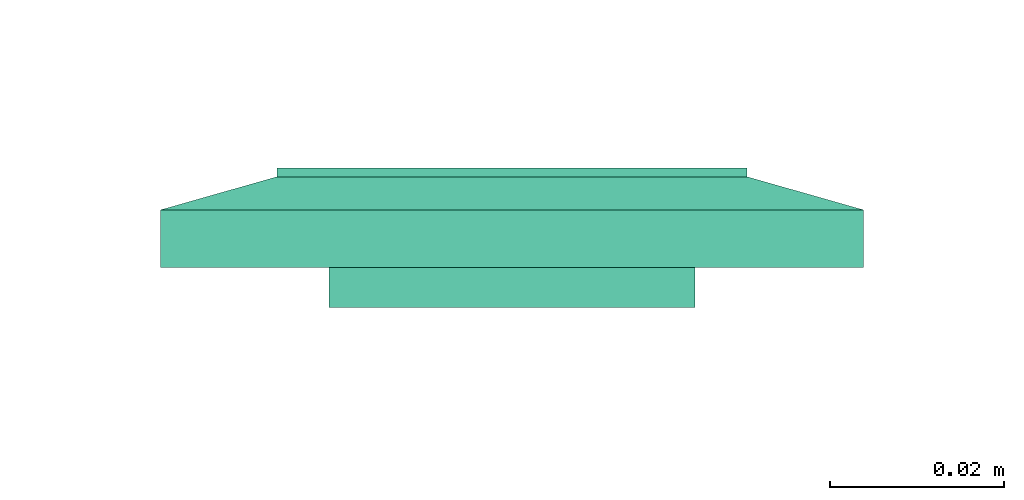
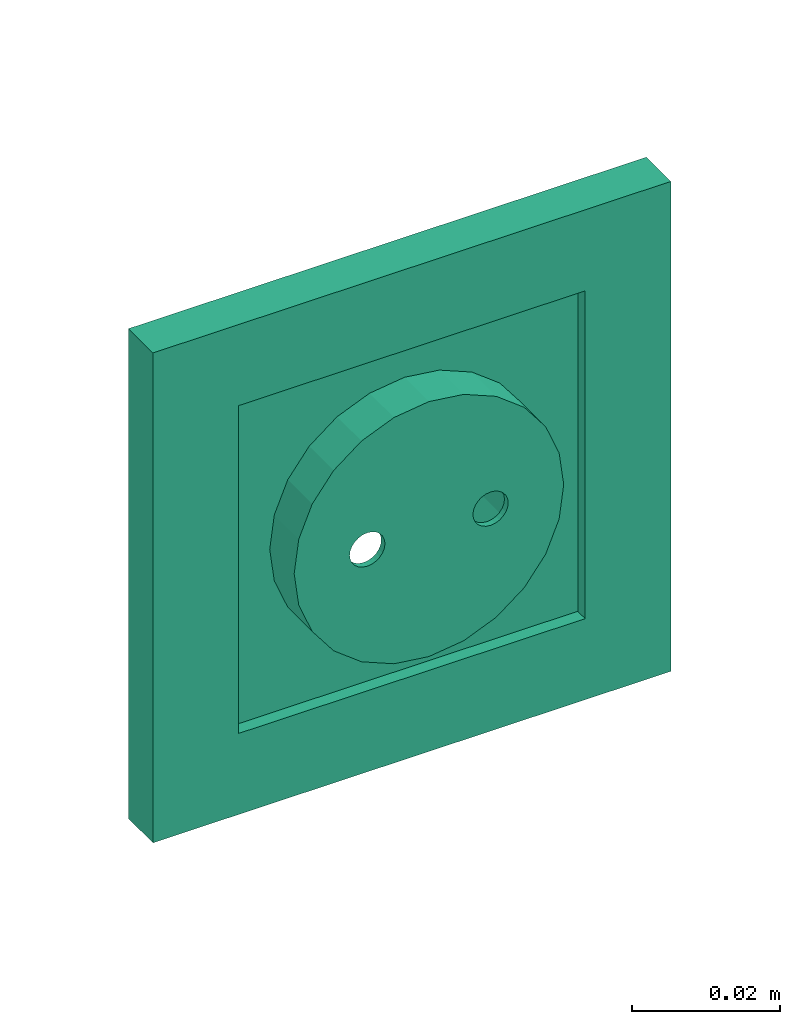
# One storey, part 85 of 153: 1 flow terminal.
"""IFC2X3 building model written with IfcOpenShell, lengths in metres."""

import ifcopenshell
import ifcopenshell.guid

model = None  # the IFC model being written
_history = None  # IfcOwnerHistory: only IFC2X3 demands one
_inside = {}  # id of a spatial element -> (the spatial element, [elements in it])
_under = {}  # id of a project, library or spatial element -> (it, [spatial elements below it])
_declared = {}  # id of a project -> (the project, [libraries it declares])
_typed = {}  # id of a type object -> (the type object, [elements of that type])
_made_of = {}  # id of a material, layer set ... -> (it, [elements and type objects made of it])


def new_model(schema):
    """Start an empty IFC model of exactly this schema.

    Asked for "IFC4X3", IfcOpenShell would pick the latest addendum, in which some entities
    have other attributes; the version numbers below select the first issue.
    IFC2X3 requires an IfcOwnerHistory on every rooted entity: one is made here for all.
    """
    global model, _history
    if schema == "IFC4X3":
        model = ifcopenshell.file(schema_version=(4, 3, 0, 0))
    else:
        model = ifcopenshell.file(schema=schema)
    _inside.clear()
    _under.clear()
    _declared.clear()
    _typed.clear()
    _made_of.clear()
    _history = None
    if model.schema == "IFC2X3":
        org = make("IfcOrganization", Name="unknown")
        user = make(
            "IfcPersonAndOrganization",
            ThePerson=make("IfcPerson", FamilyName="unknown"),
            TheOrganization=org,
        )
        app = make(
            "IfcApplication",
            ApplicationDeveloper=org,
            Version="unknown",
            ApplicationFullName="unknown",
            ApplicationIdentifier="unknown",
        )
        _history = make(
            "IfcOwnerHistory",
            OwningUser=user,
            OwningApplication=app,
            ChangeAction="ADDED",
            CreationDate=0,
        )
    return model


def make(cls, **values):
    """One entity of the class cls with the attributes given. An attribute that is None is left unset."""
    return model.create_entity(
        cls, **{name: value for name, value in values.items() if value is not None}
    )


def entity(cls, *values):
    """Any entity or typed value of the class cls, its attributes in the order of the schema. None: left unset."""
    e = model.create_entity(cls)
    for i, value in enumerate(values):
        if value is not None:
            e[i] = value
    return e


def rooted(cls, **values):
    """An entity with a GlobalId (a new one), such as an element, a storey or a relation."""
    return make(cls, GlobalId=ifcopenshell.guid.new(), OwnerHistory=_history, **values)


def si_unit(unit_type, name, prefix=None):
    """IfcSIUnit, for example si_unit("LENGTHUNIT", "METRE", prefix="MILLI")."""
    return make("IfcSIUnit", UnitType=unit_type, Prefix=prefix, Name=name)


def converted_unit(unit_type, name, factor, base, dimensions=None, offset=None):
    """IfcConversionBasedUnit, such as the inch: factor (a typed value) times the base unit."""
    return make(
        "IfcConversionBasedUnit"
        if offset is None
        else "IfcConversionBasedUnitWithOffset",
        ConversionOffset=offset,
        Dimensions=None
        if dimensions is None
        else entity("IfcDimensionalExponents", *dimensions),
        UnitType=unit_type,
        Name=name,
        ConversionFactor=make(
            "IfcMeasureWithUnit", ValueComponent=factor, UnitComponent=base
        ),
    )


def derived_unit(unit_type, elements):
    """IfcDerivedUnit: a product of units, each with its exponent."""
    return make(
        "IfcDerivedUnit",
        Elements=[
            make("IfcDerivedUnitElement", Unit=unit, Exponent=power)
            for unit, power in elements
        ],
        UnitType=unit_type,
    )


def assignment(units):
    """IfcUnitAssignment: the units of a project."""
    return None if units is None else make("IfcUnitAssignment", Units=units)


def point(xyz):
    """IfcCartesianPoint."""
    return None if xyz is None else make("IfcCartesianPoint", Coordinates=xyz)


def direction(xyz):
    """IfcDirection."""
    return None if xyz is None else make("IfcDirection", DirectionRatios=xyz)


def frame(location, z_axis=None, x_axis=None):
    """IfcAxis2Placement3D, a coordinate frame: its origin and axes. An axis left out is left unset."""
    return make(
        "IfcAxis2Placement3D",
        Location=point(location),
        Axis=direction(z_axis),
        RefDirection=direction(x_axis),
    )


def origin():
    """The frame at (0, 0, 0) with its axes left unset."""
    return frame((0.0, 0.0, 0.0))


def place(relative_to, where):
    """IfcLocalPlacement: puts the frame where relative to a parent placement (None: the world)."""
    return make(
        "IfcLocalPlacement", PlacementRelTo=relative_to, RelativePlacement=where
    )


def context(
    kind, dimensions, precision=None, world=None, true_north=None, identifier=None
):
    """IfcGeometricRepresentationContext, for example the 3D "Model" context."""
    return make(
        "IfcGeometricRepresentationContext",
        ContextIdentifier=identifier,
        ContextType=kind,
        CoordinateSpaceDimension=dimensions,
        Precision=precision,
        WorldCoordinateSystem=world,
        TrueNorth=true_north,
    )


def subcontext(parent, identifier, kind, view, scale=None):
    """IfcGeometricRepresentationSubContext, for example "Body" below "Model"."""
    return make(
        "IfcGeometricRepresentationSubContext",
        ContextIdentifier=identifier,
        ContextType=kind,
        ParentContext=parent,
        TargetScale=scale,
        TargetView=view,
    )


def project(units=None, contexts=None):
    """IfcProject with its units and contexts."""
    return rooted(
        "IfcProject",
        Name="project",
        RepresentationContexts=contexts,
        UnitsInContext=assignment(units),
    )


def spatial(cls, under=None, at=None, **own):
    """A site, building, storey or space (cls), placed at a placement, below another one or the project."""
    s = rooted(cls, ObjectPlacement=at, **own)
    if under is not None:
        _under.setdefault(under.id(), (under, []))[1].append(s)
    return s


def faces_of(points, faces, orient=None, outer=None):
    """IfcFace entities. A face is a list of loops; a loop is a list of indices into points, from 0.

    orient and outer hold one flag for each loop. By default every Orientation is true, the
    first loop of a face is its IfcFaceOuterBound and the others are IfcFaceBound.
    """
    made = []
    for i, loops in enumerate(faces):
        bounds = []
        for j, loop in enumerate(loops):
            is_outer = j == 0 if outer is None else outer[i][j]
            bounds.append(
                make(
                    "IfcFaceOuterBound" if is_outer else "IfcFaceBound",
                    Bound=make("IfcPolyLoop", Polygon=[points[k] for k in loop]),
                    Orientation=True if orient is None else orient[i][j],
                )
            )
        made.append(make("IfcFace", Bounds=bounds))
    return made


def face_set(faces, orient=None, outer=None):
    """The faces of one IfcConnectedFaceSet. surface_model builds it on its shared points."""
    return ("IfcConnectedFaceSet", faces, orient, outer)


def surface_model(cls, points, shells):
    """IfcFaceBasedSurfaceModel or IfcShellBasedSurfaceModel (cls): surfaces that need not close."""
    shared = [point(p) for p in points]
    made = [make(c, CfsFaces=faces_of(shared, fs, o, b)) for c, fs, o, b in shells]
    if cls == "IfcFaceBasedSurfaceModel":
        return make(cls, FbsmFaces=made)
    return make(cls, SbsmBoundary=made)


def shape(context_of_items, identifier, shape_type, items):
    """IfcShapeRepresentation: the items that make up one representation, for example the "Body"."""
    return make(
        "IfcShapeRepresentation",
        ContextOfItems=context_of_items,
        RepresentationIdentifier=identifier,
        RepresentationType=shape_type,
        Items=items,
    )


def source(mapping_origin, context_of_items, identifier, shape_type, items):
    """IfcRepresentationMap: a shape defined once, which mapped items show again and again."""
    return make(
        "IfcRepresentationMap",
        MappingOrigin=mapping_origin,
        MappedRepresentation=shape(context_of_items, identifier, shape_type, items),
    )


def transform(
    local_origin,
    x_axis=None,
    y_axis=None,
    z_axis=None,
    scale=None,
    scale2=None,
    scale3=None,
    uniform=True,
):
    """IfcCartesianTransformationOperator3D, or its non-uniform kind. x_axis, y_axis, z_axis: its Axis1, 2, 3."""
    if uniform:
        return make(
            "IfcCartesianTransformationOperator3D",
            Axis1=direction(x_axis),
            Axis2=direction(y_axis),
            LocalOrigin=point(local_origin),
            Scale=scale,
            Axis3=direction(z_axis),
        )
    return make(
        "IfcCartesianTransformationOperator3DnonUniform",
        Axis1=direction(x_axis),
        Axis2=direction(y_axis),
        LocalOrigin=point(local_origin),
        Scale=scale,
        Axis3=direction(z_axis),
        Scale2=scale2,
        Scale3=scale3,
    )


def mapped(mapping_source, mapping_target):
    """IfcMappedItem: shows the shape of a source again, moved by a transform."""
    return make(
        "IfcMappedItem", MappingSource=mapping_source, MappingTarget=mapping_target
    )


def made_of(thing, what):
    """Note that an element or type object is made of a material, layer set ...; save() writes the relation."""
    if what is not None:
        _made_of.setdefault(what.id(), (what, []))[1].append(thing)
    return thing


def type_object(cls, material=None, **own):
    """A type object (cls), such as IfcWallType, which elements share."""
    return made_of(rooted(cls, **own), material)


def type_shapes(of_type, sources):
    """Give a type object the sources (RepresentationMaps) that its elements show as mapped items."""
    of_type.RepresentationMaps = sources


def element(
    cls,
    number,
    at=None,
    inside=None,
    cuts=None,
    type_object=None,
    material=None,
    context=None,
    identifier="Body",
    shape_type=None,
    held_by="IfcProductDefinitionShape",
    body=None,
    shapes=None,
    **own,
):
    """One element of the class cls, such as IfcWall. Its Tag is "e" and its number.

    at: its placement. inside: the storey or other place that contains it. cuts: it is an
    opening in that element (IfcRelVoidsElement). A single representation is given by context,
    identifier, shape_type and body (its items); several are given by shapes. held_by: the class
    of the entity that holds the representations. save() writes the other relations.
    """
    e = rooted(cls, Tag="e%d" % number, ObjectPlacement=at, **own)
    if body is not None:
        shapes = [shape(context, identifier, shape_type, body)]
    if shapes is not None:
        e.Representation = make(held_by, Representations=shapes)
    if inside is not None:
        _inside.setdefault(inside.id(), (inside, []))[1].append(e)
    if cuts is not None:
        rooted(
            "IfcRelVoidsElement", RelatingBuildingElement=cuts, RelatedOpeningElement=e
        )
    if type_object is not None:
        _typed.setdefault(type_object.id(), (type_object, []))[1].append(e)
    return made_of(e, material)


def aggregate(whole, parts):
    """IfcRelAggregates: a whole, such as a stair, and the parts it consists of."""
    return rooted("IfcRelAggregates", RelatingObject=whole, RelatedObjects=parts)


def save(model, path):
    """Write the relations noted so far, then the file.

    IfcRelAggregates (storeys below a building ...), IfcRelContainedInSpatialStructure (elements
    in a storey), IfcRelDefinesByType, IfcRelAssociatesMaterial and IfcRelDeclares: one each for
    every whole, place, type object, material and project.
    """
    for whole, parts in _under.values():
        aggregate(whole, parts)
    for where, things in _inside.values():
        rooted(
            "IfcRelContainedInSpatialStructure",
            RelatedElements=things,
            RelatingStructure=where,
        )
    for kind, things in _typed.values():
        rooted("IfcRelDefinesByType", RelatedObjects=things, RelatingType=kind)
    for what, things in _made_of.values():
        rooted("IfcRelAssociatesMaterial", RelatedObjects=things, RelatingMaterial=what)
    for by, libraries in _declared.values():
        rooted("IfcRelDeclares", RelatingContext=by, RelatedDefinitions=libraries)
    model.write(path)


model = new_model("IFC2X3")

# Units and contexts
model_context = context("Model", 3, precision=1e-05, world=origin(), true_north=direction((6.12303176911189e-17, 1.0)))
body_context = subcontext(model_context, "Body", "Model", "MODEL_VIEW")
ifc_project = project(units=[si_unit("LENGTHUNIT", "METRE"), si_unit("AREAUNIT", "SQUARE_METRE"), si_unit("VOLUMEUNIT", "CUBIC_METRE"), converted_unit("PLANEANGLEUNIT", "DEGREE", entity("IfcRatioMeasure", 0.0174532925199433), si_unit("PLANEANGLEUNIT", "RADIAN"), dimensions=[0, 0, 0, 0, 0, 0, 0]), si_unit("MASSUNIT", "GRAM", prefix="KILO"), derived_unit("MASSDENSITYUNIT", [(si_unit("MASSUNIT", "GRAM", prefix="KILO"), 1), (si_unit("LENGTHUNIT", "METRE"), -3)]), si_unit("TIMEUNIT", "SECOND"), si_unit("FREQUENCYUNIT", "HERTZ"), si_unit("THERMODYNAMICTEMPERATUREUNIT", "DEGREE_CELSIUS"), derived_unit("THERMALTRANSMITTANCEUNIT", [(si_unit("MASSUNIT", "GRAM", prefix="KILO"), 1), (si_unit("THERMODYNAMICTEMPERATUREUNIT", "KELVIN"), -1), (si_unit("TIMEUNIT", "SECOND"), -3)]), derived_unit("VOLUMETRICFLOWRATEUNIT", [(si_unit("LENGTHUNIT", "METRE"), 3), (si_unit("TIMEUNIT", "SECOND"), -1)]), si_unit("ELECTRICCURRENTUNIT", "AMPERE"), si_unit("ELECTRICVOLTAGEUNIT", "VOLT"), si_unit("POWERUNIT", "WATT"), si_unit("FORCEUNIT", "NEWTON"), si_unit("ILLUMINANCEUNIT", "LUX"), si_unit("LUMINOUSFLUXUNIT", "LUMEN"), si_unit("LUMINOUSINTENSITYUNIT", "CANDELA"), derived_unit("USERDEFINED", [(si_unit("MASSUNIT", "GRAM", prefix="KILO"), -1), (si_unit("LENGTHUNIT", "METRE"), -2), (si_unit("TIMEUNIT", "SECOND"), 3), (si_unit("LUMINOUSFLUXUNIT", "LUMEN"), 1)]), derived_unit("LINEARVELOCITYUNIT", [(si_unit("LENGTHUNIT", "METRE"), 1), (si_unit("TIMEUNIT", "SECOND"), -1)]), si_unit("PRESSUREUNIT", "PASCAL"), derived_unit("USERDEFINED", [(si_unit("LENGTHUNIT", "METRE"), -2), (si_unit("MASSUNIT", "GRAM", prefix="KILO"), 1), (si_unit("TIMEUNIT", "SECOND"), -2)])], contexts=[model_context])

# Site, building, storey
site_placement = place(None, origin())
site = spatial("IfcSite", under=ifc_project, at=site_placement, Name="Default", CompositionType="ELEMENT")
building_placement = place(site_placement, origin())
building = spatial("IfcBuilding", under=site, at=building_placement, CompositionType="ELEMENT")
storey_placement = place(building_placement, frame((0.0, 0.0, -4.62)))
storey = spatial("IfcBuildingStorey", under=building, at=storey_placement, Name="S02", CompositionType="ELEMENT", Elevation=-4.62)

# Flow terminal
light_fixture_type = type_object("IfcLightFixtureType", Name="PC IP21", PredefinedType="NOTDEFINED")
shared_shape = source(origin(), body_context, "Body", "SurfaceModel", [
    surface_model("IfcFaceBasedSurfaceModel", [(-0.00225000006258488, 0.0127499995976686, 0.00949633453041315), (0.0, 0.0104999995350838, 0.00949633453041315), (0.0, 0.0115376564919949, 0.0101656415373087), (0.0, 0.0139623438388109, 0.0101656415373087), (0.0, 0.0144589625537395, 0.00984531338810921), (0.0, 0.0121178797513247, 0.0102778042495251), (0.0, 0.0133821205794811, 0.0102778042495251), (0.0, 0.0127499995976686, 0.010399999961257), (0.0, 0.0149999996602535, 0.00949633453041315), (0.00225000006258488, 0.0127499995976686, 0.00949633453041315), (0.0, 0.0110410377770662, 0.00984531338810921), (0.0, 0.0127499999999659, 0.00949633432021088), (0.00225000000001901, 0.0127499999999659, 0.00949633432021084), (0.00217333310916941, 0.0121676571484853, 0.00949633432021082), (0.00194855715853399, 0.0116249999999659, 0.00949633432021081), (0.00159099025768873, 0.0111590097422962, 0.00949633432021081), (0.001125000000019, 0.010801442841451, 0.00949633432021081), (0.00058234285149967, 0.0105766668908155, 0.00949633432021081), (0.0, 0.0104999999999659, 0.00949633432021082), (-0.000582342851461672, 0.0105766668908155, 0.00949633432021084), (-0.001124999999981, 0.010801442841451, 0.00949633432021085), (-0.00159099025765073, 0.0111590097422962, 0.00949633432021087), (-0.00194855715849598, 0.011624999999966, 0.00949633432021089), (-0.0021733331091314, 0.0121676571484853, 0.00949633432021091), (-0.00224999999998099, 0.012749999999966, 0.00949633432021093), (-0.00217333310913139, 0.0133323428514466, 0.00949633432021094), (-0.00194855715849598, 0.013874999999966, 0.00949633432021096), (-0.00159099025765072, 0.0143409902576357, 0.00949633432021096), (-0.00112499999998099, 0.0146985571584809, 0.00949633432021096), (-0.00058234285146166, 0.0149233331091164, 0.00949633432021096), (0.0, 0.0149999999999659, 0.00949633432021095), (0.000582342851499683, 0.0149233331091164, 0.00949633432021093), (0.00112500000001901, 0.0146985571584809, 0.00949633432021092), (0.00159099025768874, 0.0143409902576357, 0.00949633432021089), (0.001948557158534, 0.0138749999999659, 0.00949633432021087), (0.00217333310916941, 0.0133323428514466, 0.00949633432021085), (0.00225000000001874, 0.0127499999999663, -0.00360000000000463), (0.00217333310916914, 0.0121676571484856, -0.00360000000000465), (0.00194855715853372, 0.0116249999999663, -0.00360000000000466), (0.00159099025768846, 0.0111590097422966, -0.00360000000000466), (0.00112500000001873, 0.0108014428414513, -0.00360000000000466), (0.000582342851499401, 0.0105766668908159, -0.00360000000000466), (0.0, 0.0104999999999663, -0.00360000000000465), (-0.000582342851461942, 0.0105766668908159, -0.00360000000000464), (-0.00112499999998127, 0.0108014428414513, -0.00360000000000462), (-0.001590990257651, 0.0111590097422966, -0.0036000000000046), (-0.00194855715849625, 0.0116249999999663, -0.00360000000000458), (-0.00217333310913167, 0.0121676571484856, -0.00360000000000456), (-0.00224999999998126, 0.0127499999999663, -0.00360000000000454), (-0.00217333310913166, 0.013332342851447, -0.00360000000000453), (-0.00194855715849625, 0.0138749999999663, -0.00360000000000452), (-0.00159099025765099, 0.014340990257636, -0.00360000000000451), (-0.00112499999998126, 0.0146985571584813, -0.00360000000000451), (-0.000582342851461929, 0.0149233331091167, -0.00360000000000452), (0.0, 0.0149999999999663, -0.00360000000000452), (0.000582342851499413, 0.0149233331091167, -0.00360000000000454), (0.00112500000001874, 0.0146985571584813, -0.00360000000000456), (0.00159099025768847, 0.014340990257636, -0.00360000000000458), (0.00194855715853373, 0.0138749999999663, -0.0036000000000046), (0.00217333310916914, 0.013332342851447, -0.00360000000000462), (0.0270000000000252, 0.026999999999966, 0.0113999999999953), (-0.0269999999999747, 0.026999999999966, 0.0113999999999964), (-0.0269999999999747, -0.0270000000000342, 0.0113999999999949), (0.0270000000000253, -0.0270000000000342, 0.0113999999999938), (-0.0199999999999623, 0.0, 0.0113999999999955), (-0.0193185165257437, -0.00517638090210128, 0.0113999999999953), (-0.0173205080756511, -0.0100000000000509, 0.0113999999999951), (-0.0141421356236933, -0.0141421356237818, 0.011399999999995), (-0.00999999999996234, -0.0173205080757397, 0.0113999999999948), (-0.00517638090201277, -0.0193185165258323, 0.0113999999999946), (0.0, -0.0200000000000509, 0.0113999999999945), (0.00517638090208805, -0.0193185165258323, 0.0113999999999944), (0.0100000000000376, -0.0173205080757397, 0.0113999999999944), (0.0141421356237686, -0.0141421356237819, 0.0113999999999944), (0.0173205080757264, -0.010000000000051, 0.0113999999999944), (0.0193185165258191, -0.00517638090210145, 0.0113999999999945), (0.0200000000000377, 0.0, 0.0113999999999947), (0.0193185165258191, 0.00517638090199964, 0.0113999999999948), (0.0173205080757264, 0.0099999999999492, 0.011399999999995), (0.0141421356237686, 0.0141421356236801, 0.0113999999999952), (0.0100000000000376, 0.0173205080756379, 0.0113999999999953), (0.00517638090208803, 0.0193185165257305, 0.0113999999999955), (0.0, 0.0199999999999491, 0.0113999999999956), (-0.00517638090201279, 0.0193185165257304, 0.0113999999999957), (-0.00999999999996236, 0.0173205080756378, 0.0113999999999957), (-0.0141421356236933, 0.01414213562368, 0.0113999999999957), (-0.0173205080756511, 0.00999999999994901, 0.0113999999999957), (-0.0193185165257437, 0.00517638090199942, 0.0113999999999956), (0.0270000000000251, 0.0269999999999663, 0.00199999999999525), (0.0270000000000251, -0.0270000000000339, 0.00199999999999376), (-0.0269999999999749, -0.0270000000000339, 0.00199999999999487), (-0.0269999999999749, 0.0269999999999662, 0.00199999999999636), (0.0210000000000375, 0.0, 0.00199999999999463), (0.0202844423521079, -0.00543519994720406, 0.00199999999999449), (0.0181865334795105, -0.0105000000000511, 0.0019999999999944), (0.0148492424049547, -0.0148492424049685, 0.00199999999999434), (0.0105000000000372, -0.0181865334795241, 0.00199999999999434), (0.0054351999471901, -0.0202844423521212, 0.00199999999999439), (0.0, -0.0210000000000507, 0.00199999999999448), (-0.00543519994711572, -0.020284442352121, 0.00199999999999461), (-0.0104999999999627, -0.0181865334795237, 0.00199999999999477), (-0.0148492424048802, -0.014849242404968, 0.00199999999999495), (-0.0181865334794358, -0.0105000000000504, 0.00199999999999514), (-0.020284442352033, -0.00543519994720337, 0.00199999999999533), (-0.0209999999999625, 0.0, 0.00199999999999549), (-0.0202844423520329, 0.0054351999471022, 0.00199999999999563), (-0.0181865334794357, 0.0104999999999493, 0.00199999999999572), (-0.01484924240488, 0.0148492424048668, 0.00199999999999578), (-0.0104999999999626, 0.0181865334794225, 0.00199999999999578), (-0.00543519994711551, 0.0202844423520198, 0.00199999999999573), (0.0, 0.0209999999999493, 0.00199999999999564), (0.00543519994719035, 0.0202844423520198, 0.00199999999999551), (0.0105000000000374, 0.0181865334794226, 0.00199999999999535), (0.0148492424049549, 0.0148492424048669, 0.00199999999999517), (0.0181865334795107, 0.0104999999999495, 0.00199999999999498), (0.0202844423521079, 0.00543519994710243, 0.00199999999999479), (0.0200000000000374, 0.0, -0.00360000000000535), (0.0193185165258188, -0.00517638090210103, -0.00360000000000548), (0.0173205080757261, -0.0100000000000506, -0.00360000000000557), (0.0141421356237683, -0.0141421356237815, -0.00360000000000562), (0.0100000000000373, -0.0173205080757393, -0.00360000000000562), (0.00517638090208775, -0.0193185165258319, -0.00360000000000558), (0.0, -0.0200000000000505, -0.00360000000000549), (-0.00517638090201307, -0.0193185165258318, -0.00360000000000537), (-0.00999999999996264, -0.0173205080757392, -0.00360000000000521), (-0.0141421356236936, -0.0141421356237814, -0.00360000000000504), (-0.0173205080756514, -0.0100000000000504, -0.00360000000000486), (-0.019318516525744, -0.00517638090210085, -0.00360000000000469), (-0.0199999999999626, 0.0, -0.00360000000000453), (-0.0193185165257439, 0.00517638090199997, -0.0036000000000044), (-0.0173205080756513, 0.00999999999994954, -0.00360000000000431), (-0.0141421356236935, 0.0141421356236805, -0.00360000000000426), (-0.00999999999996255, 0.0173205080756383, -0.00360000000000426), (-0.00517638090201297, 0.0193185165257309, -0.0036000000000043), (0.0, 0.0199999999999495, -0.00360000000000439), (0.00517638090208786, 0.0193185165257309, -0.00360000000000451), (0.0100000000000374, 0.0173205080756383, -0.00360000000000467), (0.0141421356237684, 0.0141421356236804, -0.00360000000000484), (0.0173205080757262, 0.0099999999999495, -0.00360000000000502), (0.0193185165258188, 0.00517638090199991, -0.00360000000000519), (-0.0123499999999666, 0.0, -0.00360000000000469), (-0.0122562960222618, -0.000711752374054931, -0.00360000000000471), (-0.0119815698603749, -0.00137500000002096, -0.00360000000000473), (-0.0115445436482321, -0.00194454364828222, -0.00360000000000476), (-0.0109749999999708, -0.00238156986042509, -0.00360000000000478), (-0.0103117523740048, -0.00265629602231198, -0.0036000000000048), (-0.00959999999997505, -0.00275000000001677, -0.00360000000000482), (-0.0088882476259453, -0.00265629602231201, -0.00360000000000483), (-0.00822499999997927, -0.00238156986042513, -0.00360000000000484), (-0.00765545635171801, -0.00194454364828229, -0.00360000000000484), (-0.00721843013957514, -0.00137500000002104, -0.00360000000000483), (-0.00694370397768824, -0.000711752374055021, -0.00360000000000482), (-0.00684999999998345, 0.0, -0.0036000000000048), (-0.00694370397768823, 0.000711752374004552, -0.00360000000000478), (-0.00721843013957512, 0.00137499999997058, -0.00360000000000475), (-0.00765545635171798, 0.00194454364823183, -0.00360000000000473), (-0.00822499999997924, 0.00238156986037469, -0.0036000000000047), (-0.00888824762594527, 0.00265629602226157, -0.00360000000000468), (-0.00959999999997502, 0.00274999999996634, -0.00360000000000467), (-0.0103117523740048, 0.00265629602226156, -0.00360000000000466), (-0.0109749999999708, 0.00238156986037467, -0.00360000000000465), (-0.011544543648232, 0.00194454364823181, -0.00360000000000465), (-0.0119815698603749, 0.00137499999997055, -0.00360000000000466), (-0.0122562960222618, 0.000711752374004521, -0.00360000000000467), (0.00685000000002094, 0.0, -0.00360000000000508), (0.0069437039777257, -0.00071175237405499, -0.0036000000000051), (0.00721843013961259, -0.00137500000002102, -0.00360000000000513), (0.00765545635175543, -0.00194454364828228, -0.00360000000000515), (0.00822500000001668, -0.00238156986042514, -0.00360000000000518), (0.00888824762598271, -0.00265629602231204, -0.0036000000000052), (0.00960000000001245, -0.00275000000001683, -0.00360000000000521), (0.0103117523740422, -0.00265629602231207, -0.00360000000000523), (0.0109750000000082, -0.00238156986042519, -0.00360000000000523), (0.0115445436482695, -0.00194454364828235, -0.00360000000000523), (0.0119815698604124, -0.0013750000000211, -0.00360000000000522), (0.0122562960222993, -0.00071175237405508, -0.00360000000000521), (0.012350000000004, 0.0, -0.00360000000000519), (0.0122562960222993, 0.000711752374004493, -0.00360000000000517), (0.0119815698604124, 0.00137499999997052, -0.00360000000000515), (0.0115445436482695, 0.00194454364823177, -0.00360000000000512), (0.0109750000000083, 0.00238156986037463, -0.0036000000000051), (0.0103117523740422, 0.00265629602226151, -0.00360000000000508), (0.00960000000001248, 0.00274999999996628, -0.00360000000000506), (0.00888824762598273, 0.0026562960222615, -0.00360000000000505), (0.0082250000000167, 0.00238156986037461, -0.00360000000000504), (0.00765545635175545, 0.00194454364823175, -0.00360000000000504), (0.0072184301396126, 0.00137499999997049, -0.00360000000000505), (0.00694370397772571, 0.000711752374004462, -0.00360000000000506), (0.0210000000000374, 0.0, -0.00460000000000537), (0.0202844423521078, -0.00543519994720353, -0.00460000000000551), (0.0181865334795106, -0.0105000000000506, -0.0046000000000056), (0.0148492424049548, -0.0148492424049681, -0.00460000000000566), (0.0105000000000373, -0.0181865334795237, -0.00460000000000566), (0.00543519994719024, -0.0202844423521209, -0.00460000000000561), (0.0, -0.0210000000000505, -0.00460000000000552), (-0.00543519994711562, -0.0202844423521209, -0.00460000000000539), (-0.0104999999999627, -0.0181865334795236, -0.00460000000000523), (-0.0148492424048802, -0.0148492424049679, -0.00460000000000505), (-0.0181865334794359, -0.0105000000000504, -0.00460000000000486), (-0.0202844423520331, -0.00543519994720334, -0.00460000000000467), (-0.0209999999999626, 0.0, -0.00460000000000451), (-0.020284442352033, 0.00543519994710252, -0.00460000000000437), (-0.0181865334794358, 0.0104999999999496, -0.00460000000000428), (-0.0148492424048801, 0.0148492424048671, -0.00460000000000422), (-0.0104999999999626, 0.0181865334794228, -0.00460000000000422), (-0.00543519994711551, 0.02028444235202, -0.00460000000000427), (0.0, 0.0209999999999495, -0.00460000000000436), (0.00543519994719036, 0.02028444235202, -0.00460000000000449), (0.0105000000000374, 0.0181865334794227, -0.00460000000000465), (0.0148492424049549, 0.014849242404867, -0.00460000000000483), (0.0181865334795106, 0.0104999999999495, -0.00460000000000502), (0.0202844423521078, 0.00543519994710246, -0.00460000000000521), (-0.00684999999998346, 0.0, -0.0046000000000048), (-0.00694370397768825, 0.000711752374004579, -0.00460000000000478), (-0.00721843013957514, 0.00137499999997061, -0.00460000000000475), (-0.007655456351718, 0.00194454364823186, -0.00460000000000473), (-0.00822499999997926, 0.00238156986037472, -0.0046000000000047), (-0.00888824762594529, 0.0026562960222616, -0.00460000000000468), (-0.00959999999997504, 0.00274999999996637, -0.00460000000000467), (-0.0103117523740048, 0.00265629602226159, -0.00460000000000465), (-0.0109749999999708, 0.0023815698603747, -0.00460000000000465), (-0.0115445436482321, 0.00194454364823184, -0.00460000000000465), (-0.0119815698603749, 0.00137499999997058, -0.00460000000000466), (-0.0122562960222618, 0.000711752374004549, -0.00460000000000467), (-0.0123499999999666, 0.0, -0.00460000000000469), (-0.0122562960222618, -0.000711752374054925, -0.00460000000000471), (-0.0119815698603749, -0.00137500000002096, -0.00460000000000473), (-0.0115445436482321, -0.00194454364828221, -0.00460000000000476), (-0.0109749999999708, -0.00238156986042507, -0.00460000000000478), (-0.0103117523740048, -0.00265629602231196, -0.0046000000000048), (-0.00959999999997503, -0.00275000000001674, -0.00460000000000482), (-0.00888824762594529, -0.00265629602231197, -0.00460000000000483), (-0.00822499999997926, -0.00238156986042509, -0.00460000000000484), (-0.007655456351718, -0.00194454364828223, -0.00460000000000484), (-0.00721843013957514, -0.00137500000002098, -0.00460000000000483), (-0.00694370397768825, -0.000711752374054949, -0.00460000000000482), (0.012350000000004, 0.0, -0.00460000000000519), (0.0122562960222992, 0.000711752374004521, -0.00460000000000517), (0.0119815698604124, 0.00137499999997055, -0.00460000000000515), (0.0115445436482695, 0.0019445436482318, -0.00460000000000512), (0.0109750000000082, 0.00238156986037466, -0.0046000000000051), (0.0103117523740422, 0.00265629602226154, -0.00460000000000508), (0.00960000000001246, 0.00274999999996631, -0.00460000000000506), (0.00888824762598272, 0.00265629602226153, -0.00460000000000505), (0.00822500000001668, 0.00238156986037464, -0.00460000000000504), (0.00765545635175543, 0.00194454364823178, -0.00460000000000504), (0.00721843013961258, 0.00137499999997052, -0.00460000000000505), (0.00694370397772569, 0.00071175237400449, -0.00460000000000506), (0.00685000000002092, 0.0, -0.00460000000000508), (0.00694370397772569, -0.000711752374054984, -0.0046000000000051), (0.00721843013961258, -0.00137500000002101, -0.00460000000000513), (0.00765545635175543, -0.00194454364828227, -0.00460000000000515), (0.00822500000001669, -0.00238156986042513, -0.00460000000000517), (0.00888824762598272, -0.00265629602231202, -0.0046000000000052), (0.00960000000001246, -0.0027500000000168, -0.00460000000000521), (0.0103117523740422, -0.00265629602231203, -0.00460000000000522), (0.0109750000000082, -0.00238156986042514, -0.00460000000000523), (0.0115445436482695, -0.00194454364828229, -0.00460000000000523), (0.0119815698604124, -0.00137500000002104, -0.00460000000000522), (0.0122562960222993, -0.000711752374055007, -0.00460000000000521), (0.040350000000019, 0.0403499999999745, 0.00659999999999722), (0.040350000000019, -0.0403500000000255, 0.00659999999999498), (-0.0403499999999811, -0.0403500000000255, 0.00659999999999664), (-0.0403499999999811, 0.0403499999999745, 0.00659999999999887), (0.027000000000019, 0.0269999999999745, 0.00659999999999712), (-0.0269999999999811, 0.0269999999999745, 0.00659999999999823), (-0.026999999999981, -0.0270000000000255, 0.00659999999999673), (0.027000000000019, -0.0270000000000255, 0.00659999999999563), (0.027000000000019, 0.0269999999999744, 0.0103999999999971), (-0.026999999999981, 0.0269999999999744, 0.0103999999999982), (-0.026999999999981, -0.0270000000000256, 0.0103999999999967), (0.027000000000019, -0.0270000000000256, 0.0103999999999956), (0.040350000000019, 0.0403499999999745, 0.00659999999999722), (0.040350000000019, -0.0403500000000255, 0.00659999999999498), (-0.0403499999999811, -0.0403500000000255, 0.00659999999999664), (-0.0403499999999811, 0.0403499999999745, 0.00659999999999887), (-0.0269999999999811, 0.0269999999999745, 0.00659999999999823), (-0.0269999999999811, -0.0270000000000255, 0.00659999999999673), (0.0270000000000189, -0.0270000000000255, 0.00659999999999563), (0.0270000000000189, 0.0269999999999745, 0.00659999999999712), (0.0403500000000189, 0.0403499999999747, 0.0), (0.0403500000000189, -0.0403500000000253, 0.0), (-0.0403499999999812, -0.0403500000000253, 0.0), (-0.0403499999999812, 0.0403499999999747, 0.0), (0.0270000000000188, 0.0269999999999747, 0.0), (-0.0269999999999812, 0.0269999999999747, 0.0), (-0.0269999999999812, -0.0270000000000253, 0.0), (0.0270000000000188, -0.0270000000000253, 0.0)], [face_set([[[0, 1, 2]], [[3, 4, 2, 5]], [[6, 3, 5, 7]], [[2, 4, 0]], [[4, 8, 0]], [[3, 9, 8]], [[1, 9, 10]], [[2, 3, 6, 7]], [[3, 10, 9]], [[2, 10, 3]], [[11, 1, 0, 8]], [[11, 8, 9, 1]]]), face_set([[[12, 13, 14, 15, 16, 17, 18, 19, 20, 21, 22, 23, 24, 25, 26, 27, 28, 29, 30, 31, 32, 33, 34, 35]], [[36, 37, 38, 39, 40, 41, 42, 43, 44, 45, 46, 47, 48, 49, 50, 51, 52, 53, 54, 55, 56, 57, 58, 59]], [[48, 47, 23, 24]], [[47, 46, 22, 23]], [[45, 44, 20, 21]], [[46, 45, 21, 22]], [[44, 43, 19, 20]], [[18, 19, 43, 42]], [[42, 41, 17, 18]], [[41, 40, 16, 17]], [[39, 38, 14, 15]], [[40, 39, 15, 16]], [[38, 37, 13, 14]], [[12, 13, 37, 36]], [[36, 59, 35, 12]], [[59, 58, 34, 35]], [[57, 56, 32, 33]], [[58, 57, 33, 34]], [[56, 55, 31, 32]], [[30, 31, 55, 54]], [[54, 53, 29, 30]], [[53, 52, 28, 29]], [[51, 50, 26, 27]], [[52, 51, 27, 28]], [[50, 49, 25, 26]], [[24, 25, 49, 48]]]), face_set([[[60, 61, 62, 63], [64, 65, 66, 67, 68, 69, 70, 71, 72, 73, 74, 75, 76, 77, 78, 79, 80, 81, 82, 83, 84, 85, 86, 87]], [[88, 89, 90, 91], [92, 93, 94, 95, 96, 97, 98, 99, 100, 101, 102, 103, 104, 105, 106, 107, 108, 109, 110, 111, 112, 113, 114, 115]], [[61, 60, 88, 91]], [[62, 61, 91, 90]], [[63, 62, 90, 89]], [[60, 63, 89, 88]], [[116, 117, 118, 119, 120, 121, 122, 123, 124, 125, 126, 127, 128, 129, 130, 131, 132, 133, 134, 135, 136, 137, 138, 139], [140, 141, 142, 143, 144, 145, 146, 147, 148, 149, 150, 151, 152, 153, 154, 155, 156, 157, 158, 159, 160, 161, 162, 163], [164, 165, 166, 167, 168, 169, 170, 171, 172, 173, 174, 175, 176, 177, 178, 179, 180, 181, 182, 183, 184, 185, 186, 187]], [[64, 128, 127, 65]], [[65, 127, 126, 66]], [[67, 125, 124, 68]], [[66, 126, 125, 67]], [[68, 124, 123, 69]], [[122, 70, 69, 123]], [[70, 122, 121, 71]], [[71, 121, 120, 72]], [[73, 119, 118, 74]], [[72, 120, 119, 73]], [[74, 118, 117, 75]], [[116, 76, 75, 117]], [[76, 116, 139, 77]], [[77, 139, 138, 78]], [[79, 137, 136, 80]], [[78, 138, 137, 79]], [[80, 136, 135, 81]], [[134, 82, 81, 135]], [[82, 134, 133, 83]], [[83, 133, 132, 84]], [[84, 132, 131, 85]], [[85, 131, 130, 86]], [[130, 129, 87, 86]], [[64, 87, 129, 128]], [[188, 189, 190, 191, 192, 193, 194, 195, 196, 197, 198, 199, 200, 201, 202, 203, 204, 205, 206, 207, 208, 209, 210, 211], [212, 213, 214, 215, 216, 217, 218, 219, 220, 221, 222, 223, 224, 225, 226, 227, 228, 229, 230, 231, 232, 233, 234, 235], [236, 237, 238, 239, 240, 241, 242, 243, 244, 245, 246, 247, 248, 249, 250, 251, 252, 253, 254, 255, 256, 257, 258, 259]], [[200, 199, 103, 104]], [[199, 198, 102, 103]], [[197, 196, 100, 101]], [[198, 197, 101, 102]], [[196, 195, 99, 100]], [[98, 99, 195, 194]], [[194, 193, 97, 98]], [[193, 192, 96, 97]], [[191, 190, 94, 95]], [[192, 191, 95, 96]], [[190, 189, 93, 94]], [[92, 93, 189, 188]], [[188, 211, 115, 92]], [[211, 210, 114, 115]], [[209, 208, 112, 113]], [[210, 209, 113, 114]], [[208, 207, 111, 112]], [[110, 111, 207, 206]], [[206, 205, 109, 110]], [[205, 204, 108, 109]], [[203, 202, 106, 107]], [[204, 203, 107, 108]], [[202, 201, 105, 106]], [[104, 105, 201, 200]], [[141, 225, 226, 142]], [[140, 224, 225, 141]], [[144, 228, 229, 145]], [[143, 227, 228, 144]], [[142, 226, 227, 143]], [[230, 146, 145, 229]], [[149, 233, 232, 148]], [[148, 232, 231, 147]], [[152, 212, 235, 151]], [[151, 235, 234, 150]], [[150, 234, 233, 149]], [[146, 230, 231, 147]], [[154, 214, 213, 153]], [[153, 213, 212, 152]], [[157, 217, 216, 156]], [[156, 216, 215, 155]], [[155, 215, 214, 154]], [[218, 158, 157, 217]], [[160, 220, 221, 161]], [[159, 219, 220, 160]], [[163, 223, 224, 140]], [[162, 222, 223, 163]], [[161, 221, 222, 162]], [[158, 218, 219, 159]], [[166, 250, 249, 165]], [[165, 249, 248, 164]], [[169, 253, 252, 168]], [[168, 252, 251, 167]], [[167, 251, 250, 166]], [[254, 170, 169, 253]], [[172, 256, 257, 173]], [[171, 255, 256, 172]], [[175, 259, 236, 176]], [[174, 258, 259, 175]], [[173, 257, 258, 174]], [[170, 254, 255, 171]], [[177, 237, 238, 178]], [[176, 236, 237, 177]], [[180, 240, 241, 181]], [[179, 239, 240, 180]], [[178, 238, 239, 179]], [[242, 182, 181, 241]], [[185, 245, 244, 184]], [[184, 244, 243, 183]], [[164, 248, 247, 187]], [[187, 247, 246, 186]], [[186, 246, 245, 185]], [[182, 242, 243, 183]]]), face_set([[[260, 261, 262, 263], [264, 265, 266, 267]], [[260, 268, 269, 263]], [[263, 269, 270, 262]], [[262, 270, 271, 261]], [[261, 271, 268, 260]], [[264, 265, 269, 268]], [[265, 266, 270, 269]], [[266, 267, 271, 270]], [[268, 271, 267, 264]]]), face_set([[[272, 273, 274, 275], [276, 277, 278, 279]], [[280, 281, 282, 283], [284, 285, 286, 287]], [[275, 272, 280, 283]], [[274, 275, 283, 282]], [[273, 274, 282, 281]], [[272, 273, 281, 280]], [[284, 285, 276, 279]], [[285, 286, 277, 276]], [[286, 287, 278, 277]], [[279, 278, 287, 284]]])]),
])
type_shapes(light_fixture_type, [shared_shape])
flow_terminal_placement = place(storey_placement, frame((54.9439935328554, -193.259651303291, 0.130000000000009), z_axis=(0.0, 1.0, 0.0), x_axis=(-1.0, 0.0, 0.0)))
element("IfcFlowTerminal", 1, at=flow_terminal_placement, inside=storey, type_object=light_fixture_type, Name="INT Prise de courant:PC IP21", ObjectType="INT Prise de courant:PC IP21", context=body_context, shape_type="MappedRepresentation", body=[
    mapped(shared_shape, transform((0.0, 0.0, 0.0), scale=1.0)),
])

save(model, "model.ifc")
